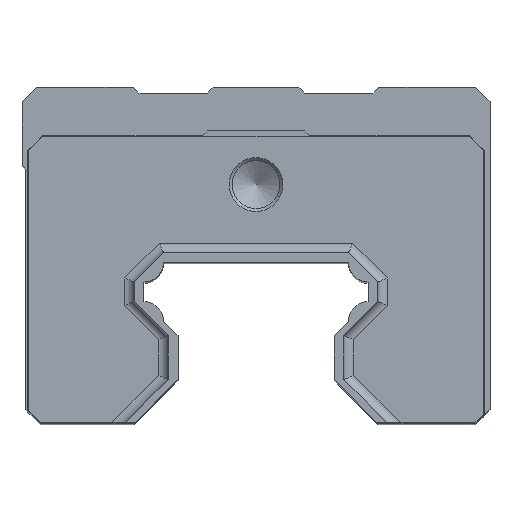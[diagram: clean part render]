
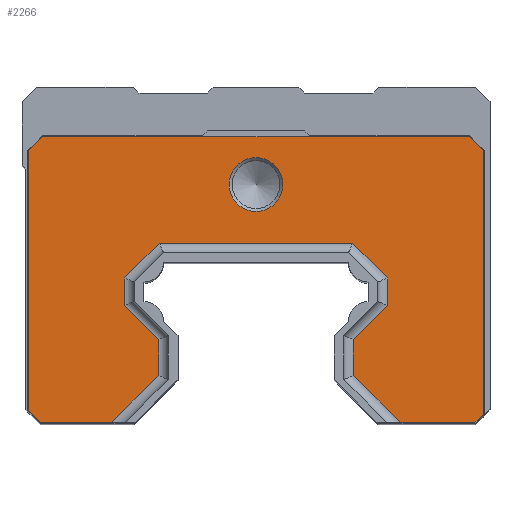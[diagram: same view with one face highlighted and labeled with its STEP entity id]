
A CAD part, top view. The second image highlights one B-rep face of the part: STEP entity #2266.
In plain terms, the highlighted planar face has unit normal (0, 0, 1).
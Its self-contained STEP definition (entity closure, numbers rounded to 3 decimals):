
#39=FACE_BOUND('',#342,.T.);
#45=PLANE('',#2410);
#224=FACE_OUTER_BOUND('',#341,.T.);
#341=EDGE_LOOP('',(#1630,#1631,#1632,#1633,#1634,#1635,#1636,#1637,#1638,
#1639,#1640,#1641,#1642,#1643,#1644,#1645,#1646,#1647,#1648,#1649));
#342=EDGE_LOOP('',(#1650));
#481=LINE('',#3258,#755);
#482=LINE('',#3260,#756);
#483=LINE('',#3262,#757);
#484=LINE('',#3264,#758);
#485=LINE('',#3266,#759);
#486=LINE('',#3268,#760);
#487=LINE('',#3270,#761);
#488=LINE('',#3272,#762);
#489=LINE('',#3274,#763);
#490=LINE('',#3276,#764);
#491=LINE('',#3278,#765);
#492=LINE('',#3280,#766);
#493=LINE('',#3282,#767);
#494=LINE('',#3284,#768);
#495=LINE('',#3286,#769);
#496=LINE('',#3288,#770);
#497=LINE('',#3290,#771);
#498=LINE('',#3292,#772);
#499=LINE('',#3294,#773);
#500=LINE('',#3295,#774);
#755=VECTOR('',#2623,10.);
#756=VECTOR('',#2624,10.);
#757=VECTOR('',#2625,10.);
#758=VECTOR('',#2626,10.);
#759=VECTOR('',#2627,10.);
#760=VECTOR('',#2628,10.);
#761=VECTOR('',#2629,10.);
#762=VECTOR('',#2630,10.);
#763=VECTOR('',#2631,10.);
#764=VECTOR('',#2632,10.);
#765=VECTOR('',#2633,10.);
#766=VECTOR('',#2634,10.);
#767=VECTOR('',#2635,10.);
#768=VECTOR('',#2636,10.);
#769=VECTOR('',#2637,10.);
#770=VECTOR('',#2638,10.);
#771=VECTOR('',#2639,10.);
#772=VECTOR('',#2640,10.);
#773=VECTOR('',#2641,10.);
#774=VECTOR('',#2642,10.);
#1009=CIRCLE('',#2405,2.759);
#1061=VERTEX_POINT('',#3244);
#1065=VERTEX_POINT('',#3256);
#1066=VERTEX_POINT('',#3257);
#1067=VERTEX_POINT('',#3259);
#1068=VERTEX_POINT('',#3261);
#1069=VERTEX_POINT('',#3263);
#1070=VERTEX_POINT('',#3265);
#1071=VERTEX_POINT('',#3267);
#1072=VERTEX_POINT('',#3269);
#1073=VERTEX_POINT('',#3271);
#1074=VERTEX_POINT('',#3273);
#1075=VERTEX_POINT('',#3275);
#1076=VERTEX_POINT('',#3277);
#1077=VERTEX_POINT('',#3279);
#1078=VERTEX_POINT('',#3281);
#1079=VERTEX_POINT('',#3283);
#1080=VERTEX_POINT('',#3285);
#1081=VERTEX_POINT('',#3287);
#1082=VERTEX_POINT('',#3289);
#1083=VERTEX_POINT('',#3291);
#1084=VERTEX_POINT('',#3293);
#1285=EDGE_CURVE('',#1061,#1061,#1009,.T.);
#1291=EDGE_CURVE('',#1065,#1066,#481,.T.);
#1292=EDGE_CURVE('',#1065,#1067,#482,.T.);
#1293=EDGE_CURVE('',#1067,#1068,#483,.T.);
#1294=EDGE_CURVE('',#1068,#1069,#484,.T.);
#1295=EDGE_CURVE('',#1069,#1070,#485,.T.);
#1296=EDGE_CURVE('',#1070,#1071,#486,.T.);
#1297=EDGE_CURVE('',#1071,#1072,#487,.T.);
#1298=EDGE_CURVE('',#1072,#1073,#488,.T.);
#1299=EDGE_CURVE('',#1073,#1074,#489,.T.);
#1300=EDGE_CURVE('',#1074,#1075,#490,.T.);
#1301=EDGE_CURVE('',#1076,#1075,#491,.T.);
#1302=EDGE_CURVE('',#1077,#1076,#492,.T.);
#1303=EDGE_CURVE('',#1078,#1077,#493,.T.);
#1304=EDGE_CURVE('',#1079,#1078,#494,.T.);
#1305=EDGE_CURVE('',#1080,#1079,#495,.T.);
#1306=EDGE_CURVE('',#1081,#1080,#496,.T.);
#1307=EDGE_CURVE('',#1082,#1081,#497,.T.);
#1308=EDGE_CURVE('',#1083,#1082,#498,.T.);
#1309=EDGE_CURVE('',#1084,#1083,#499,.T.);
#1310=EDGE_CURVE('',#1066,#1084,#500,.T.);
#1630=ORIENTED_EDGE('',*,*,#1291,.F.);
#1631=ORIENTED_EDGE('',*,*,#1292,.T.);
#1632=ORIENTED_EDGE('',*,*,#1293,.T.);
#1633=ORIENTED_EDGE('',*,*,#1294,.T.);
#1634=ORIENTED_EDGE('',*,*,#1295,.T.);
#1635=ORIENTED_EDGE('',*,*,#1296,.T.);
#1636=ORIENTED_EDGE('',*,*,#1297,.T.);
#1637=ORIENTED_EDGE('',*,*,#1298,.T.);
#1638=ORIENTED_EDGE('',*,*,#1299,.T.);
#1639=ORIENTED_EDGE('',*,*,#1300,.T.);
#1640=ORIENTED_EDGE('',*,*,#1301,.F.);
#1641=ORIENTED_EDGE('',*,*,#1302,.F.);
#1642=ORIENTED_EDGE('',*,*,#1303,.F.);
#1643=ORIENTED_EDGE('',*,*,#1304,.F.);
#1644=ORIENTED_EDGE('',*,*,#1305,.F.);
#1645=ORIENTED_EDGE('',*,*,#1306,.F.);
#1646=ORIENTED_EDGE('',*,*,#1307,.F.);
#1647=ORIENTED_EDGE('',*,*,#1308,.F.);
#1648=ORIENTED_EDGE('',*,*,#1309,.F.);
#1649=ORIENTED_EDGE('',*,*,#1310,.F.);
#1650=ORIENTED_EDGE('',*,*,#1285,.F.);
#2266=ADVANCED_FACE('',(#224,#39),#45,.T.);
#2405=AXIS2_PLACEMENT_3D('',#3245,#2609,#2610);
#2410=AXIS2_PLACEMENT_3D('',#3255,#2621,#2622);
#2609=DIRECTION('center_axis',(0.,0.,1.));
#2610=DIRECTION('ref_axis',(-1.,0.,0.));
#2621=DIRECTION('center_axis',(0.,0.,1.));
#2622=DIRECTION('ref_axis',(1.,0.,0.));
#2623=DIRECTION('',(-0.707,0.707,0.));
#2624=DIRECTION('',(1.,0.,0.));
#2625=DIRECTION('',(0.707,0.707,0.));
#2626=DIRECTION('',(0.,1.,0.));
#2627=DIRECTION('',(-0.707,0.707,0.));
#2628=DIRECTION('',(-1.,0.,0.));
#2629=DIRECTION('',(-0.707,-0.707,0.));
#2630=DIRECTION('',(0.,-1.,0.));
#2631=DIRECTION('',(0.707,-0.707,0.));
#2632=DIRECTION('',(1.,0.,0.));
#2633=DIRECTION('',(-0.707,-0.707,0.));
#2634=DIRECTION('',(0.,-1.,0.));
#2635=DIRECTION('',(0.707,-0.707,0.));
#2636=DIRECTION('',(0.,-1.,0.));
#2637=DIRECTION('',(-0.707,-0.707,0.));
#2638=DIRECTION('',(-1.,0.,0.));
#2639=DIRECTION('',(-0.707,0.707,0.));
#2640=DIRECTION('',(0.,1.,0.));
#2641=DIRECTION('',(0.707,0.707,0.));
#2642=DIRECTION('',(0.,1.,0.));
#3244=CARTESIAN_POINT('',(2.759,30.,41.6));
#3245=CARTESIAN_POINT('Origin',(0.,30.,41.6));
#3255=CARTESIAN_POINT('Origin',(0.,20.25,41.6));
#3256=CARTESIAN_POINT('',(14.814,5.6,41.6));
#3257=CARTESIAN_POINT('',(10.,10.414,41.6));
#3258=CARTESIAN_POINT('',(4.895,15.52,41.6));
#3259=CARTESIAN_POINT('',(22.459,5.6,41.6));
#3260=CARTESIAN_POINT('',(12.4,5.6,41.6));
#3261=CARTESIAN_POINT('',(23.3,6.441,41.6));
#3262=CARTESIAN_POINT('',(22.459,5.6,41.6));
#3263=CARTESIAN_POINT('',(23.3,33.459,41.6));
#3264=CARTESIAN_POINT('',(23.3,6.441,41.6));
#3265=CARTESIAN_POINT('',(21.859,34.9,41.6));
#3266=CARTESIAN_POINT('',(23.3,33.459,41.6));
#3267=CARTESIAN_POINT('',(-21.859,34.9,41.6));
#3268=CARTESIAN_POINT('',(21.859,34.9,41.6));
#3269=CARTESIAN_POINT('',(-23.3,33.459,41.6));
#3270=CARTESIAN_POINT('',(-21.859,34.9,41.6));
#3271=CARTESIAN_POINT('',(-23.3,6.841,41.6));
#3272=CARTESIAN_POINT('',(-23.3,33.459,41.6));
#3273=CARTESIAN_POINT('',(-22.059,5.6,41.6));
#3274=CARTESIAN_POINT('',(-23.3,6.841,41.6));
#3275=CARTESIAN_POINT('',(-14.814,5.6,41.6));
#3276=CARTESIAN_POINT('',(-22.059,5.6,41.6));
#3277=CARTESIAN_POINT('',(-10.,10.414,41.6));
#3278=CARTESIAN_POINT('',(-7.095,13.32,41.6));
#3279=CARTESIAN_POINT('',(-10.,14.086,41.6));
#3280=CARTESIAN_POINT('',(-10.,15.125,41.6));
#3281=CARTESIAN_POINT('',(-13.5,17.586,41.6));
#3282=CARTESIAN_POINT('',(-8.895,12.98,41.6));
#3283=CARTESIAN_POINT('',(-13.5,20.414,41.6));
#3284=CARTESIAN_POINT('',(-13.5,19.125,41.6));
#3285=CARTESIAN_POINT('',(-9.914,24.,41.6));
#3286=CARTESIAN_POINT('',(-10.02,23.895,41.6));
#3287=CARTESIAN_POINT('',(9.914,24.,41.6));
#3288=CARTESIAN_POINT('',(-4.75,24.,41.6));
#3289=CARTESIAN_POINT('',(13.5,20.414,41.6));
#3290=CARTESIAN_POINT('',(8.52,25.395,41.6));
#3291=CARTESIAN_POINT('',(13.5,17.586,41.6));
#3292=CARTESIAN_POINT('',(13.5,20.125,41.6));
#3293=CARTESIAN_POINT('',(10.,14.086,41.6));
#3294=CARTESIAN_POINT('',(10.645,14.73,41.6));
#3295=CARTESIAN_POINT('',(10.,17.375,41.6));
